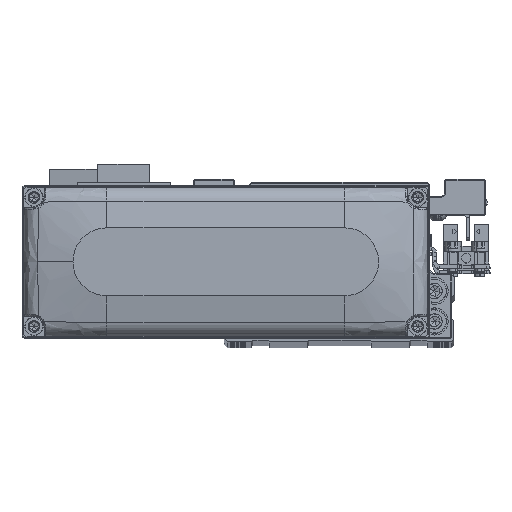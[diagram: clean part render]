
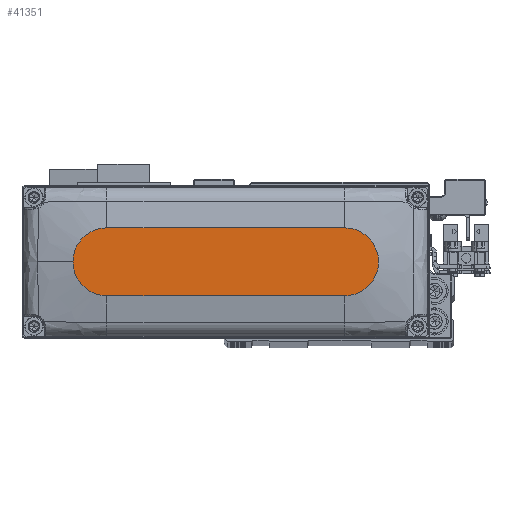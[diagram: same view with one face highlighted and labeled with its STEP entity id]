
A CAD part, top view. The second image highlights one B-rep face of the part: STEP entity #41351.
In plain terms, the highlighted planar face has unit normal (0, 0, 1).
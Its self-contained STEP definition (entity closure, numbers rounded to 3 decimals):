
#393 = DIRECTION ( 'NONE',  ( 0., 0., 1. ) ) ;
#1173 = LINE ( 'NONE', #14165, #16611 ) ;
#2120 = CIRCLE ( 'NONE', #25930, 10. ) ;
#2754 = AXIS2_PLACEMENT_3D ( 'NONE', #5471, #18459, #31424 ) ;
#4284 = EDGE_CURVE ( 'NONE', #9788, #31978, #21147, .T. ) ;
#5196 = CARTESIAN_POINT ( 'NONE',  ( -35., -10., 28. ) ) ;
#5471 = CARTESIAN_POINT ( 'NONE',  ( 35., 0., 28. ) ) ;
#5844 = AXIS2_PLACEMENT_3D ( 'NONE', #7303, #20292, #33253 ) ;
#6073 = ORIENTED_EDGE ( 'NONE', *, *, #40275, .T. ) ;
#6296 = EDGE_LOOP ( 'NONE', ( #6073, #8440, #27425, #32869, #23064 ) ) ;
#7303 = CARTESIAN_POINT ( 'NONE',  ( -35., 0., 28. ) ) ;
#8440 = ORIENTED_EDGE ( 'NONE', *, *, #9111, .T. ) ;
#9082 = DIRECTION ( 'NONE',  ( 1., 0., 0. ) ) ;
#9111 = EDGE_CURVE ( 'NONE', #33476, #16291, #24201, .T. ) ;
#9788 = VERTEX_POINT ( 'NONE', #37814 ) ;
#10248 = CARTESIAN_POINT ( 'NONE',  ( 45., 0., 28. ) ) ;
#11883 = AXIS2_PLACEMENT_3D ( 'NONE', #25270, #38209, #9082 ) ;
#12281 = PLANE ( 'NONE',  #11883 ) ;
#13377 = DIRECTION ( 'NONE',  ( 1., 0., 0. ) ) ;
#14165 = CARTESIAN_POINT ( 'NONE',  ( -35., 10., 28. ) ) ;
#16291 = VERTEX_POINT ( 'NONE', #23259 ) ;
#16611 = VECTOR ( 'NONE', #27146, 1000. ) ;
#18186 = DIRECTION ( 'NONE',  ( 1., 0., 0. ) ) ;
#18305 = CARTESIAN_POINT ( 'NONE',  ( -35., 10., 28. ) ) ;
#18459 = DIRECTION ( 'NONE',  ( 0., 0., 1. ) ) ;
#19873 = VECTOR ( 'NONE', #18186, 1000. ) ;
#20292 = DIRECTION ( 'NONE',  ( 0., 0., 1. ) ) ;
#21147 = CIRCLE ( 'NONE', #2754, 10. ) ;
#23064 = ORIENTED_EDGE ( 'NONE', *, *, #37553, .T. ) ;
#23259 = CARTESIAN_POINT ( 'NONE',  ( -35., -10., 28. ) ) ;
#24201 = CIRCLE ( 'NONE', #5844, 10. ) ;
#25270 = CARTESIAN_POINT ( 'NONE',  ( 0., 0., 28. ) ) ;
#25930 = AXIS2_PLACEMENT_3D ( 'NONE', #29541, #393, #13377 ) ;
#26232 = CARTESIAN_POINT ( 'NONE',  ( 35., 10., 28. ) ) ;
#26400 = VERTEX_POINT ( 'NONE', #26232 ) ;
#27146 = DIRECTION ( 'NONE',  ( -1., 0., 0. ) ) ;
#27425 = ORIENTED_EDGE ( 'NONE', *, *, #38174, .T. ) ;
#29541 = CARTESIAN_POINT ( 'NONE',  ( 35., 0., 28. ) ) ;
#31424 = DIRECTION ( 'NONE',  ( 1., 0., 0. ) ) ;
#31978 = VERTEX_POINT ( 'NONE', #10248 ) ;
#32869 = ORIENTED_EDGE ( 'NONE', *, *, #4284, .T. ) ;
#33253 = DIRECTION ( 'NONE',  ( 1., 0., 0. ) ) ;
#33476 = VERTEX_POINT ( 'NONE', #18305 ) ;
#34330 = LINE ( 'NONE', #5196, #19873 ) ;
#37553 = EDGE_CURVE ( 'NONE', #31978, #26400, #2120, .T. ) ;
#37814 = CARTESIAN_POINT ( 'NONE',  ( 35., -10., 28. ) ) ;
#38174 = EDGE_CURVE ( 'NONE', #16291, #9788, #34330, .T. ) ;
#38209 = DIRECTION ( 'NONE',  ( 0., 0., 1. ) ) ;
#40275 = EDGE_CURVE ( 'NONE', #26400, #33476, #1173, .T. ) ;
#41351 = ADVANCED_FACE ( 'NONE', ( #41381 ), #12281, .T. ) ;
#41381 = FACE_OUTER_BOUND ( 'NONE', #6296, .T. ) ;
